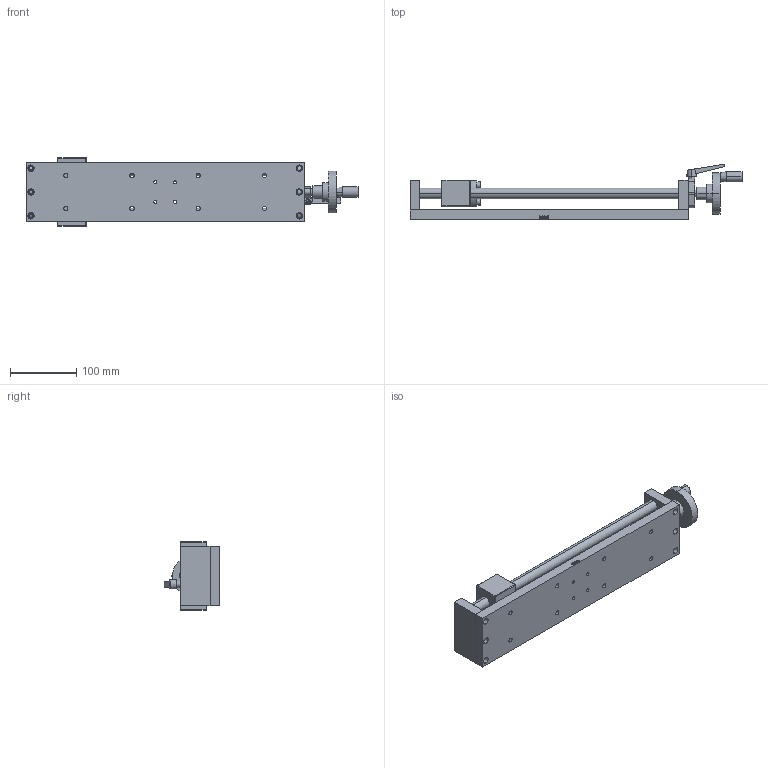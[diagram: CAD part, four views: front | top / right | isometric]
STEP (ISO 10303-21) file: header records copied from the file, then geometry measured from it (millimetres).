
FILE_DESCRIPTION (( 'STEP AP203' ), '1' );
FILE_NAME ('PT-LX300.STEP', '2022-08-21T09:16:19', ( '' ), ( '' ), 'SwSTEP 2.0', 'SolidWorks 2017', '' );
FILE_SCHEMA (( 'CONFIG_CONTROL_DESIGN' ));
Length unit declared in the file: millimetre
Products named in the file (1): PT-LX300
Bounding box: 501 x 84.34 x 104 mm (x, y, z)
Surface area: 217886 mm2 (no closed solid volume)
Topology: 0 solids, 26 shells, 429 faces, 1240 edges, 839 vertices
Faces by surface type: plane 184, cylinder 145, bspline 76, sphere 8, cone 8, torus 8
Entity records: 17531 total; most frequent: CARTESIAN_POINT 6404, ORIENTED_EDGE 2214, DIRECTION 2170, EDGE_CURVE 1228, VERTEX_POINT 839, AXIS2_PLACEMENT_3D 753, VECTOR 664, LINE 664
